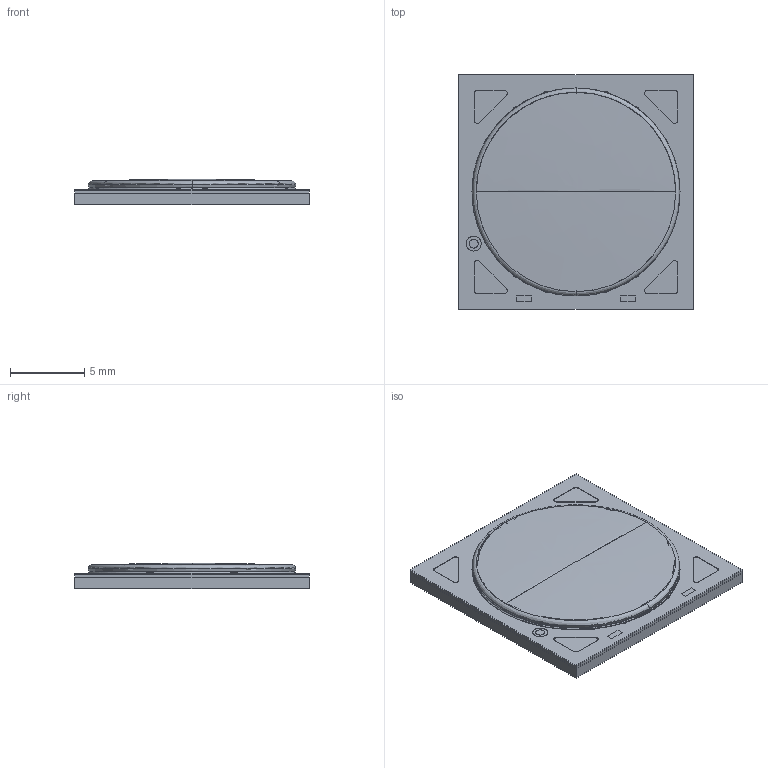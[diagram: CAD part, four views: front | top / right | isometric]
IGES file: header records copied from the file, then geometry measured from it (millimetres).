
Start section: SolidWorks IGES file using analytic representation for surfaces
Global section: file name: C:\Users\deanyi\Desktop\BLXX ENGINEERING\Vero13  CHANGE TO V13 Add Tc test print\QM_Sub_08mm_Rect1.IGS; native system: SolidWorks 2013; preprocessor: SolidWorks 2013; author: deanyi; date: 150222.223138; units: millimetre
Bounding box: 15.8 x 15.8 x 1.7 mm (x, y, z)
Surface area: 1692 mm2 (no closed solid volume)
Topology: 0 solids, 0 shells, 162 faces, 1680 edges, 1679 vertices
Faces by surface type: revolution 89, bspline 73
